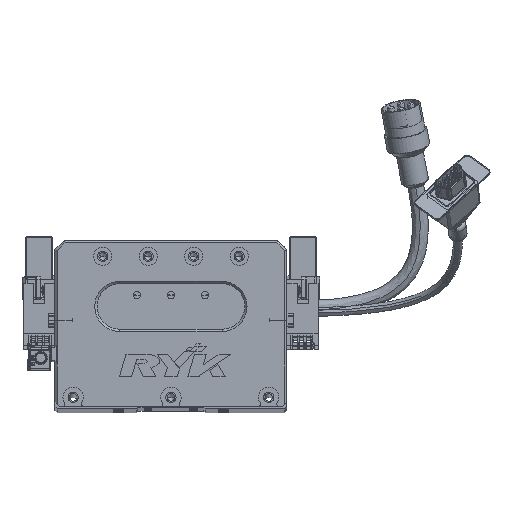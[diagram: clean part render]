
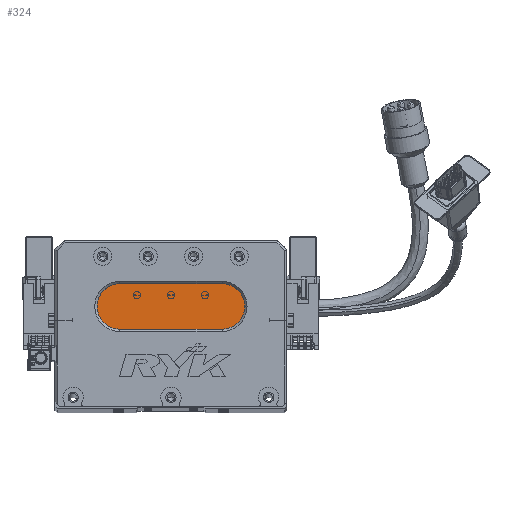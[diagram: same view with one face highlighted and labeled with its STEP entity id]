
A CAD part, top view. The second image highlights one B-rep face of the part: STEP entity #324.
In plain terms, the highlighted planar face has unit normal (0, 0, 1) as drawn and (0, 0, -1) by its records, which use the part's own axes.
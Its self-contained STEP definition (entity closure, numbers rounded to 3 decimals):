
#324 = ADVANCED_FACE ( 'NONE', ( #42263 ), #2433, .T. ) ;
#1754 = EDGE_CURVE ( 'NONE', #18603, #21126, #19463, .T. ) ;
#2433 = PLANE ( 'NONE',  #20455 ) ;
#2873 = DIRECTION ( 'NONE',  ( 0., 0., -1. ) ) ;
#3233 = ORIENTED_EDGE ( 'NONE', *, *, #19782, .T. ) ;
#3298 = ORIENTED_EDGE ( 'NONE', *, *, #25383, .T. ) ;
#5381 = DIRECTION ( 'NONE',  ( -1., 0., 0. ) ) ;
#7234 = CARTESIAN_POINT ( 'NONE',  ( 73.5, 34., 13. ) ) ;
#7524 = CARTESIAN_POINT ( 'NONE',  ( 28.5, 34., 13. ) ) ;
#9837 = CIRCLE ( 'NONE', #55566, 10. ) ;
#10301 = VECTOR ( 'NONE', #47723, 1000. ) ;
#12000 = LINE ( 'NONE', #66779, #10301 ) ;
#12593 = CARTESIAN_POINT ( 'NONE',  ( 73.5, 44., 13. ) ) ;
#12655 = DIRECTION ( 'NONE',  ( -1., 0., 0. ) ) ;
#13012 = DIRECTION ( 'NONE',  ( 0., 0., -1. ) ) ;
#14360 = EDGE_CURVE ( 'NONE', #53979, #48963, #12000, .T. ) ;
#16684 = EDGE_LOOP ( 'NONE', ( #3298, #22477, #40442, #3233, #61927 ) ) ;
#17570 = DIRECTION ( 'NONE',  ( 0., 0., -1. ) ) ;
#17990 = DIRECTION ( 'NONE',  ( -1., 0., 0. ) ) ;
#18015 = DIRECTION ( 'NONE',  ( -1., 0., 0. ) ) ;
#18603 = VERTEX_POINT ( 'NONE', #7524 ) ;
#19463 = CIRCLE ( 'NONE', #50816, 10. ) ;
#19782 = EDGE_CURVE ( 'NONE', #21126, #53979, #9837, .T. ) ;
#20455 = AXIS2_PLACEMENT_3D ( 'NONE', #12593, #17570, #38291 ) ;
#21126 = VERTEX_POINT ( 'NONE', #36640 ) ;
#22477 = ORIENTED_EDGE ( 'NONE', *, *, #57636, .T. ) ;
#25383 = EDGE_CURVE ( 'NONE', #48963, #54245, #41257, .T. ) ;
#30245 = LINE ( 'NONE', #7234, #35136 ) ;
#30887 = AXIS2_PLACEMENT_3D ( 'NONE', #48865, #2873, #18015 ) ;
#31483 = DIRECTION ( 'NONE',  ( 0., 0., -1. ) ) ;
#33539 = CARTESIAN_POINT ( 'NONE',  ( 28.5, 44., 13. ) ) ;
#35005 = CARTESIAN_POINT ( 'NONE',  ( 73.5, 34., 13. ) ) ;
#35136 = VECTOR ( 'NONE', #12655, 1000. ) ;
#36640 = CARTESIAN_POINT ( 'NONE',  ( 18.5, 44., 13. ) ) ;
#38291 = DIRECTION ( 'NONE',  ( -1., 0., 0. ) ) ;
#40442 = ORIENTED_EDGE ( 'NONE', *, *, #1754, .T. ) ;
#41257 = CIRCLE ( 'NONE', #30887, 10. ) ;
#42263 = FACE_OUTER_BOUND ( 'NONE', #16684, .T. ) ;
#43159 = CARTESIAN_POINT ( 'NONE',  ( 73.5, 54., 13. ) ) ;
#46832 = CARTESIAN_POINT ( 'NONE',  ( 28.5, 44., 13. ) ) ;
#47723 = DIRECTION ( 'NONE',  ( 1., 0., 0. ) ) ;
#47879 = CARTESIAN_POINT ( 'NONE',  ( 28.5, 54., 13. ) ) ;
#48865 = CARTESIAN_POINT ( 'NONE',  ( 73.5, 44., 13. ) ) ;
#48963 = VERTEX_POINT ( 'NONE', #43159 ) ;
#50816 = AXIS2_PLACEMENT_3D ( 'NONE', #46832, #31483, #5381 ) ;
#53979 = VERTEX_POINT ( 'NONE', #47879 ) ;
#54245 = VERTEX_POINT ( 'NONE', #35005 ) ;
#55566 = AXIS2_PLACEMENT_3D ( 'NONE', #33539, #13012, #17990 ) ;
#57636 = EDGE_CURVE ( 'NONE', #54245, #18603, #30245, .T. ) ;
#61927 = ORIENTED_EDGE ( 'NONE', *, *, #14360, .T. ) ;
#66779 = CARTESIAN_POINT ( 'NONE',  ( 73.5, 54., 13. ) ) ;
